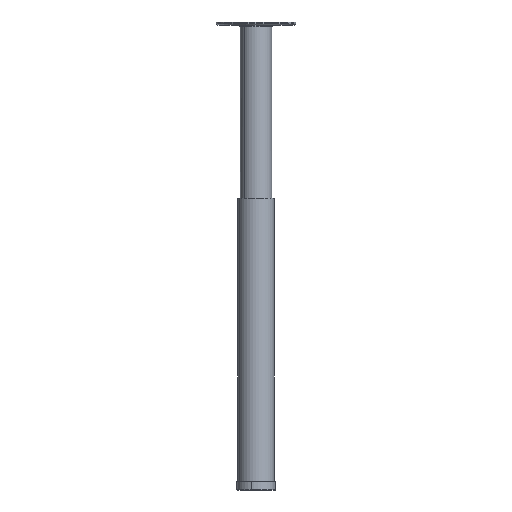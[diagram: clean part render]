
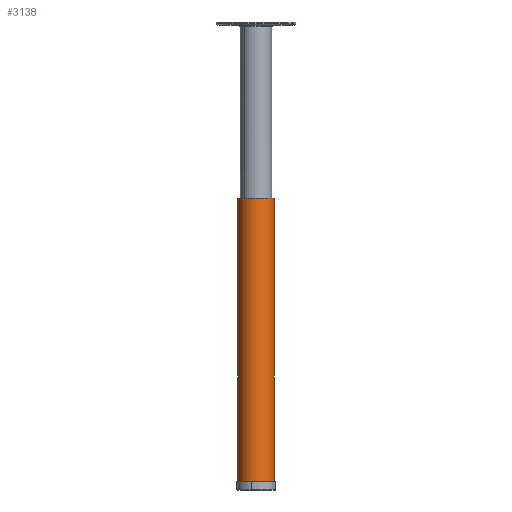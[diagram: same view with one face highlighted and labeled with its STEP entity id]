
A CAD part, front view. The second image highlights one B-rep face of the part: STEP entity #3138.
In plain terms, the highlighted cylindrical face has radius 41 mm (diameter 82 mm), a partial arc.
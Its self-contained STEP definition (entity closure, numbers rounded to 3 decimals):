
#564 = CARTESIAN_POINT ( 'NONE',  ( 46.978, 6.377, -255.92 ) ) ;
#601 = VERTEX_POINT ( 'NONE', #564 ) ;
#685 = AXIS2_PLACEMENT_3D ( 'NONE', #1481, #3088, #3127 ) ;
#934 = LINE ( 'NONE', #2626, #2784 ) ;
#1127 = AXIS2_PLACEMENT_3D ( 'NONE', #5653, #2886, #4678 ) ;
#1232 = ORIENTED_EDGE ( 'NONE', *, *, #6412, .F. ) ;
#1283 = VECTOR ( 'NONE', #2487, 1000. ) ;
#1320 = AXIS2_PLACEMENT_3D ( 'NONE', #1609, #2177, #5429 ) ;
#1404 = VERTEX_POINT ( 'NONE', #6609 ) ;
#1449 = CYLINDRICAL_SURFACE ( 'NONE', #685, 41. ) ;
#1481 = CARTESIAN_POINT ( 'NONE',  ( 5.978, 6.377, -475.32 ) ) ;
#1609 = CARTESIAN_POINT ( 'NONE',  ( 5.978, 6.377, 394.08 ) ) ;
#1634 = ORIENTED_EDGE ( 'NONE', *, *, #1928, .T. ) ;
#1783 = CIRCLE ( 'NONE', #1320, 41. ) ;
#1928 = EDGE_CURVE ( 'NONE', #4591, #601, #5898, .T. ) ;
#2177 = DIRECTION ( 'NONE',  ( 0., 0., 1. ) ) ;
#2266 = EDGE_LOOP ( 'NONE', ( #1232, #1634, #6995, #3191 ) ) ;
#2461 = CARTESIAN_POINT ( 'NONE',  ( -35.022, 6.377, -475.32 ) ) ;
#2487 = DIRECTION ( 'NONE',  ( 0., 0., 1. ) ) ;
#2626 = CARTESIAN_POINT ( 'NONE',  ( 46.978, 6.377, -475.32 ) ) ;
#2784 = VECTOR ( 'NONE', #5846, 1000. ) ;
#2886 = DIRECTION ( 'NONE',  ( 0., 0., 1. ) ) ;
#2920 = LINE ( 'NONE', #2461, #1283 ) ;
#3088 = DIRECTION ( 'NONE',  ( 0., 0., 1. ) ) ;
#3127 = DIRECTION ( 'NONE',  ( 1., 0., 0. ) ) ;
#3138 = ADVANCED_FACE ( 'NONE', ( #3626 ), #1449, .T. ) ;
#3191 = ORIENTED_EDGE ( 'NONE', *, *, #4765, .F. ) ;
#3626 = FACE_OUTER_BOUND ( 'NONE', #2266, .T. ) ;
#4591 = VERTEX_POINT ( 'NONE', #6958 ) ;
#4678 = DIRECTION ( 'NONE',  ( 0., 1., 0. ) ) ;
#4765 = EDGE_CURVE ( 'NONE', #5754, #1404, #1783, .T. ) ;
#4952 = CARTESIAN_POINT ( 'NONE',  ( -35.022, 6.377, 394.08 ) ) ;
#5429 = DIRECTION ( 'NONE',  ( 1., 0., 0. ) ) ;
#5653 = CARTESIAN_POINT ( 'NONE',  ( 5.978, 6.377, -255.92 ) ) ;
#5754 = VERTEX_POINT ( 'NONE', #4952 ) ;
#5846 = DIRECTION ( 'NONE',  ( 0., 0., 1. ) ) ;
#5898 = CIRCLE ( 'NONE', #1127, 41. ) ;
#6412 = EDGE_CURVE ( 'NONE', #4591, #5754, #2920, .T. ) ;
#6609 = CARTESIAN_POINT ( 'NONE',  ( 46.978, 6.377, 394.08 ) ) ;
#6893 = EDGE_CURVE ( 'NONE', #601, #1404, #934, .T. ) ;
#6958 = CARTESIAN_POINT ( 'NONE',  ( -35.022, 6.377, -255.92 ) ) ;
#6995 = ORIENTED_EDGE ( 'NONE', *, *, #6893, .T. ) ;
